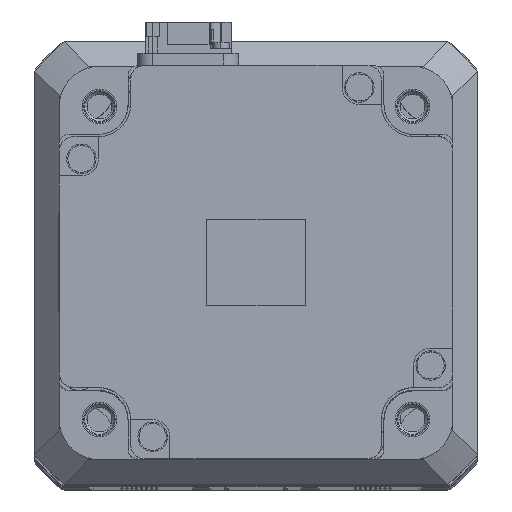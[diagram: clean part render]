
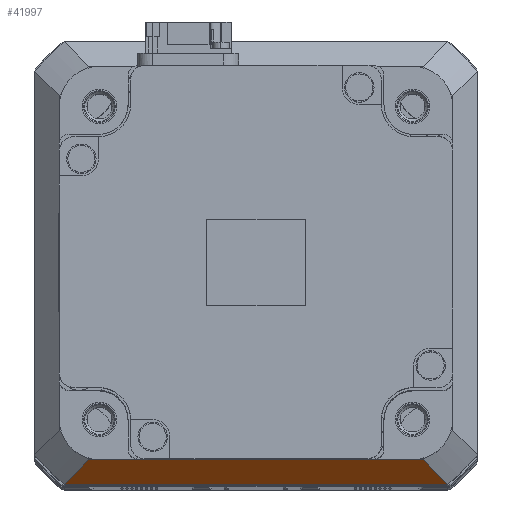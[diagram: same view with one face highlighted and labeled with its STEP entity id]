
A CAD part, top view. The second image highlights one B-rep face of the part: STEP entity #41997.
In plain terms, the highlighted planar face has unit normal (0, -0.707, 0.707).
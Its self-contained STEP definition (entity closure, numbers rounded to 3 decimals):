
#2337 = PLANE ( 'NONE',  #8705 ) ;
#3013 = CARTESIAN_POINT ( 'NONE',  ( 39.003, -45., 94. ) ) ;
#3160 = CARTESIAN_POINT ( 'NONE',  ( -35.671, -41.666, 97.334 ) ) ;
#4095 = VERTEX_POINT ( 'NONE', #9164 ) ;
#5120 = CARTESIAN_POINT ( 'NONE',  ( 34.004, -40., 99. ) ) ;
#7146 = CARTESIAN_POINT ( 'NONE',  ( -34.004, -40., 99. ) ) ;
#8322 = LINE ( 'NONE', #31926, #50315 ) ;
#8509 = ORIENTED_EDGE ( 'NONE', *, *, #11391, .F. ) ;
#8705 = AXIS2_PLACEMENT_3D ( 'NONE', #10258, #37873, #14235 ) ;
#9164 = CARTESIAN_POINT ( 'NONE',  ( 39.003, -45., 94. ) ) ;
#10177 = EDGE_CURVE ( 'NONE', #13989, #4095, #22645, .T. ) ;
#10258 = CARTESIAN_POINT ( 'NONE',  ( 0., -42.5, 96.5 ) ) ;
#11391 = EDGE_CURVE ( 'NONE', #39727, #51279, #40441, .T. ) ;
#12037 = CARTESIAN_POINT ( 'NONE',  ( -34.004, -40., 99. ) ) ;
#13989 = VERTEX_POINT ( 'NONE', #5120 ) ;
#14235 = DIRECTION ( 'NONE',  ( 0., -0.707, -0.707 ) ) ;
#18329 = VECTOR ( 'NONE', #40765, 1000. ) ;
#19076 = CARTESIAN_POINT ( 'NONE',  ( -39.003, -45., 94. ) ) ;
#20787 = LINE ( 'NONE', #25066, #18329 ) ;
#22645 = B_SPLINE_CURVE_WITH_KNOTS ( 'NONE', 3,
 ( #22662, #46327, #26654, #3013 ),
 .UNSPECIFIED., .F., .F.,
 ( 4, 4 ),
 ( 0., 0.009 ),
 .UNSPECIFIED. ) ;
#22662 = CARTESIAN_POINT ( 'NONE',  ( 34.004, -40., 99. ) ) ;
#25066 = CARTESIAN_POINT ( 'NONE',  ( 0., -40., 99. ) ) ;
#26654 = CARTESIAN_POINT ( 'NONE',  ( 37.337, -43.333, 95.667 ) ) ;
#26802 = CARTESIAN_POINT ( 'NONE',  ( -37.337, -43.333, 95.667 ) ) ;
#28251 = ORIENTED_EDGE ( 'NONE', *, *, #44516, .F. ) ;
#30776 = CARTESIAN_POINT ( 'NONE',  ( -39.003, -45., 94. ) ) ;
#31926 = CARTESIAN_POINT ( 'NONE',  ( -24., -45., 94. ) ) ;
#31999 = ORIENTED_EDGE ( 'NONE', *, *, #10177, .F. ) ;
#37873 = DIRECTION ( 'NONE',  ( 0., 0.707, -0.707 ) ) ;
#39056 = EDGE_CURVE ( 'NONE', #51279, #13989, #20787, .T. ) ;
#39727 = VERTEX_POINT ( 'NONE', #19076 ) ;
#40441 = B_SPLINE_CURVE_WITH_KNOTS ( 'NONE', 3,
 ( #30776, #26802, #3160, #7146 ),
 .UNSPECIFIED., .F., .F.,
 ( 4, 4 ),
 ( 0., 0.009 ),
 .UNSPECIFIED. ) ;
#40765 = DIRECTION ( 'NONE',  ( 1., 0., 0. ) ) ;
#41997 = ADVANCED_FACE ( 'NONE', ( #45153 ), #2337, .F. ) ;
#44516 = EDGE_CURVE ( 'NONE', #4095, #39727, #8322, .T. ) ;
#45153 = FACE_OUTER_BOUND ( 'NONE', #50091, .T. ) ;
#45995 = ORIENTED_EDGE ( 'NONE', *, *, #39056, .F. ) ;
#46327 = CARTESIAN_POINT ( 'NONE',  ( 35.671, -41.666, 97.334 ) ) ;
#47647 = DIRECTION ( 'NONE',  ( -1., 0., 0. ) ) ;
#50091 = EDGE_LOOP ( 'NONE', ( #31999, #45995, #8509, #28251 ) ) ;
#50315 = VECTOR ( 'NONE', #47647, 1000. ) ;
#51279 = VERTEX_POINT ( 'NONE', #12037 ) ;
